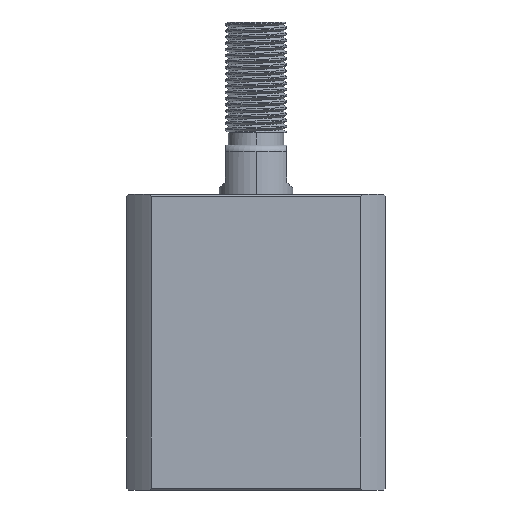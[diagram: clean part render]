
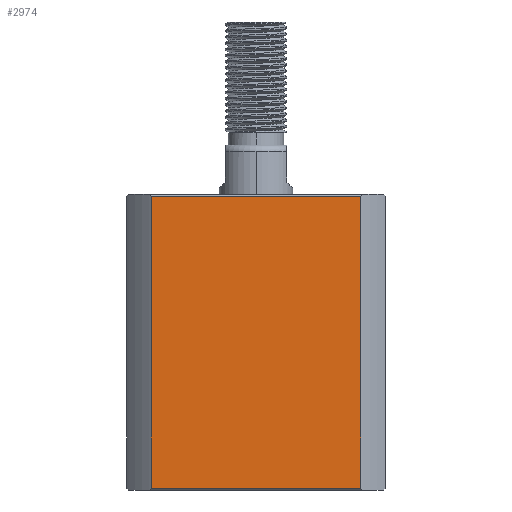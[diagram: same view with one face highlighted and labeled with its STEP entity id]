
A CAD part, left-side view. The second image highlights one B-rep face of the part: STEP entity #2974.
In plain terms, the highlighted planar face has unit normal (-1, 0, 0).
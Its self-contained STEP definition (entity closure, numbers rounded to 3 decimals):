
#373 = LINE ( 'NONE', #1401, #9189 ) ;
#698 = CARTESIAN_POINT ( 'NONE',  ( -21., -16.971, 47.7 ) ) ;
#873 = DIRECTION ( 'NONE',  ( 0., 1., 0. ) ) ;
#900 = LINE ( 'NONE', #12267, #12767 ) ;
#1401 = CARTESIAN_POINT ( 'NONE',  ( -21., -16.971, 48.429 ) ) ;
#1573 = CARTESIAN_POINT ( 'NONE',  ( -21., -16.971, 0.3 ) ) ;
#1599 = EDGE_CURVE ( 'NONE', #3027, #3198, #7609, .T. ) ;
#2572 = DIRECTION ( 'NONE',  ( 0., 0., -1. ) ) ;
#2974 = ADVANCED_FACE ( 'NONE', ( #4403 ), #14337, .F. ) ;
#3027 = VERTEX_POINT ( 'NONE', #698 ) ;
#3128 = CARTESIAN_POINT ( 'NONE',  ( -21., 21., 47.7 ) ) ;
#3198 = VERTEX_POINT ( 'NONE', #3693 ) ;
#3693 = CARTESIAN_POINT ( 'NONE',  ( -21., 16.971, 47.7 ) ) ;
#3731 = EDGE_CURVE ( 'NONE', #3027, #5736, #373, .T. ) ;
#4121 = CARTESIAN_POINT ( 'NONE',  ( -21., 21., 48. ) ) ;
#4282 = ORIENTED_EDGE ( 'NONE', *, *, #3731, .F. ) ;
#4403 = FACE_OUTER_BOUND ( 'NONE', #10283, .T. ) ;
#4592 = VECTOR ( 'NONE', #873, 1000. ) ;
#4637 = VERTEX_POINT ( 'NONE', #14875 ) ;
#5416 = DIRECTION ( 'NONE',  ( 0., 0., 1. ) ) ;
#5611 = CARTESIAN_POINT ( 'NONE',  ( -21., 21., 0.3 ) ) ;
#5672 = ORIENTED_EDGE ( 'NONE', *, *, #1599, .T. ) ;
#5736 = VERTEX_POINT ( 'NONE', #1573 ) ;
#6418 = DIRECTION ( 'NONE',  ( 1., 0., 0. ) ) ;
#6762 = DIRECTION ( 'NONE',  ( 0., -1., 0. ) ) ;
#7609 = LINE ( 'NONE', #3128, #4592 ) ;
#8200 = ORIENTED_EDGE ( 'NONE', *, *, #12274, .T. ) ;
#9189 = VECTOR ( 'NONE', #2572, 1000. ) ;
#10283 = EDGE_LOOP ( 'NONE', ( #4282, #5672, #12028, #8200 ) ) ;
#11541 = AXIS2_PLACEMENT_3D ( 'NONE', #4121, #6418, #14431 ) ;
#12028 = ORIENTED_EDGE ( 'NONE', *, *, #12075, .F. ) ;
#12075 = EDGE_CURVE ( 'NONE', #4637, #3198, #900, .T. ) ;
#12267 = CARTESIAN_POINT ( 'NONE',  ( -21., 16.971, 48.429 ) ) ;
#12274 = EDGE_CURVE ( 'NONE', #4637, #5736, #14387, .T. ) ;
#12767 = VECTOR ( 'NONE', #5416, 1000. ) ;
#14032 = VECTOR ( 'NONE', #6762, 1000. ) ;
#14337 = PLANE ( 'NONE',  #11541 ) ;
#14387 = LINE ( 'NONE', #5611, #14032 ) ;
#14431 = DIRECTION ( 'NONE',  ( 0., 1., 0. ) ) ;
#14875 = CARTESIAN_POINT ( 'NONE',  ( -21., 16.971, 0.3 ) ) ;
